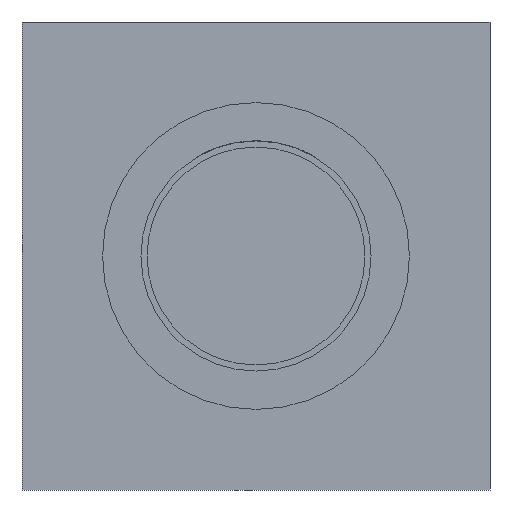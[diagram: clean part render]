
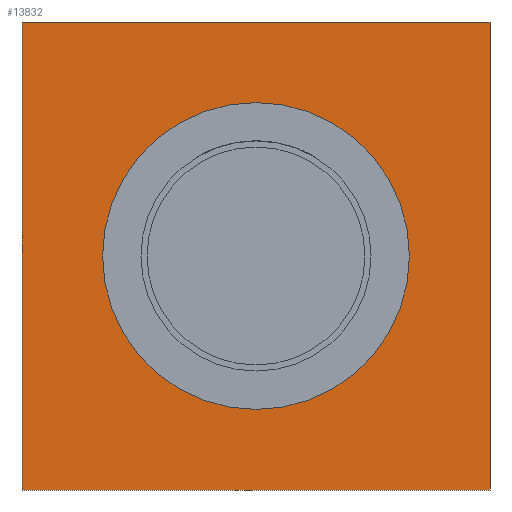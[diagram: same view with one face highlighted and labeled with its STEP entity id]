
A CAD part, front view. The second image highlights one B-rep face of the part: STEP entity #13832.
In plain terms, the highlighted planar face has unit normal (0, -1, 0).
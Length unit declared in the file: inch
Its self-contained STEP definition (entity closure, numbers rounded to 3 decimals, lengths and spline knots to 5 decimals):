
#13625=CARTESIAN_POINT('',(3.05,5.67,-3.05));
#13626=VERTEX_POINT('',#13625);
#13627=CARTESIAN_POINT('',(-3.05,5.67,-3.05));
#13628=VERTEX_POINT('',#13627);
#13629=CARTESIAN_POINT('',(3.05,5.67,-3.05));
#13630=DIRECTION('',(-1.0,0.0,0.0));
#13631=VECTOR('',#13630,6.1);
#13632=LINE('',#13629,#13631);
#13633=EDGE_CURVE('',#13626,#13628,#13632,.T.);
#13665=CARTESIAN_POINT('',(-3.05,5.67,3.05));
#13666=VERTEX_POINT('',#13665);
#13667=CARTESIAN_POINT('',(-3.05,5.67,-3.05));
#13668=DIRECTION('',(0.0,0.0,1.0));
#13669=VECTOR('',#13668,6.1);
#13670=LINE('',#13667,#13669);
#13671=EDGE_CURVE('',#13628,#13666,#13670,.T.);
#13696=CARTESIAN_POINT('',(3.05,5.67,3.05));
#13697=VERTEX_POINT('',#13696);
#13698=CARTESIAN_POINT('',(-3.05,5.67,3.05));
#13699=DIRECTION('',(1.0,0.0,0.0));
#13700=VECTOR('',#13699,6.1);
#13701=LINE('',#13698,#13700);
#13702=EDGE_CURVE('',#13666,#13697,#13701,.T.);
#13727=CARTESIAN_POINT('',(3.05,5.67,3.05));
#13728=DIRECTION('',(0.0,0.0,-1.0));
#13729=VECTOR('',#13728,6.1);
#13730=LINE('',#13727,#13729);
#13731=EDGE_CURVE('',#13697,#13626,#13730,.T.);
#13803=CARTESIAN_POINT('',(-2.,5.67,0.0));
#13804=VERTEX_POINT('',#13803);
#13805=CARTESIAN_POINT('',(0.0,5.67,0.0));
#13806=DIRECTION('',(0.0,1.0,0.0));
#13807=DIRECTION('',(-1.0,0.0,0.0));
#13808=AXIS2_PLACEMENT_3D('',#13805,#13806,#13807);
#13809=CIRCLE('',#13808,2.);
#13810=EDGE_CURVE('',#13804,#13804,#13809,.T.);
#13818=CARTESIAN_POINT('',(-2.525,5.67,0.0));
#13819=DIRECTION('',(0.0,-1.0,0.0));
#13820=DIRECTION('',(0.0,0.0,-1.0));
#13821=AXIS2_PLACEMENT_3D('',#13818,#13819,#13820);
#13822=PLANE('',#13821);
#13823=ORIENTED_EDGE('',*,*,#13671,.F.);
#13824=ORIENTED_EDGE('',*,*,#13633,.F.);
#13825=ORIENTED_EDGE('',*,*,#13731,.F.);
#13826=ORIENTED_EDGE('',*,*,#13702,.F.);
#13827=EDGE_LOOP('',(#13823,#13824,#13825,#13826));
#13828=FACE_OUTER_BOUND('',#13827,.T.);
#13829=ORIENTED_EDGE('',*,*,#13810,.T.);
#13830=EDGE_LOOP('',(#13829));
#13831=FACE_BOUND('',#13830,.T.);
#13832=ADVANCED_FACE('',(#13828,#13831),#13822,.T.);
